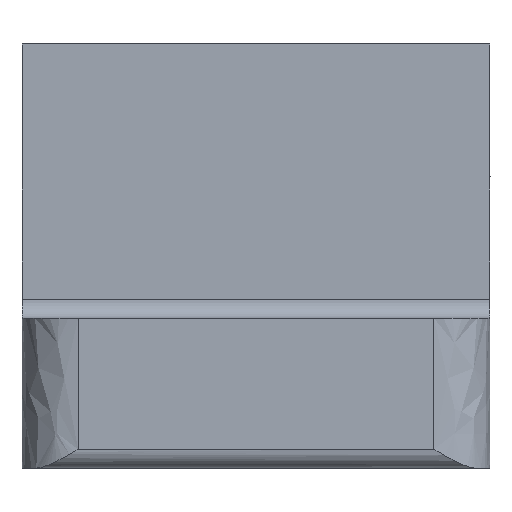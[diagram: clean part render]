
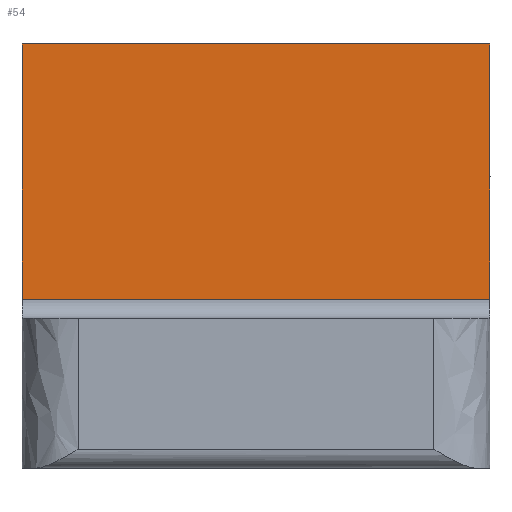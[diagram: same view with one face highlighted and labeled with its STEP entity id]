
A CAD part, left-side view. The second image highlights one B-rep face of the part: STEP entity #54.
In plain terms, the highlighted planar face has unit normal (-1, 0, 0).
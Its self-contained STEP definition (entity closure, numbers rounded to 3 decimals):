
#46 = ORIENTED_EDGE ( 'NONE', *, *, #152, .T. ) ;
#52 = CARTESIAN_POINT ( 'NONE',  ( -4.75, -12.5, 0. ) ) ;
#54 = ADVANCED_FACE ( 'NONE', ( #547 ), #62, .F. ) ;
#62 = PLANE ( 'NONE',  #1268 ) ;
#69 = VECTOR ( 'NONE', #888, 1000. ) ;
#152 = EDGE_CURVE ( 'NONE', #383, #833, #958, .T. ) ;
#171 = CARTESIAN_POINT ( 'NONE',  ( -4.75, 12.5, 0. ) ) ;
#192 = DIRECTION ( 'NONE',  ( 0., 1., 0. ) ) ;
#261 = DIRECTION ( 'NONE',  ( 0., 0., -1. ) ) ;
#270 = CARTESIAN_POINT ( 'NONE',  ( -4.75, -12.5, 0. ) ) ;
#274 = ORIENTED_EDGE ( 'NONE', *, *, #1162, .F. ) ;
#309 = ORIENTED_EDGE ( 'NONE', *, *, #428, .F. ) ;
#323 = VECTOR ( 'NONE', #192, 1000. ) ;
#325 = ORIENTED_EDGE ( 'NONE', *, *, #1109, .T. ) ;
#349 = VECTOR ( 'NONE', #858, 1000. ) ;
#375 = CARTESIAN_POINT ( 'NONE',  ( -4.75, -12.5, 0. ) ) ;
#383 = VERTEX_POINT ( 'NONE', #270 ) ;
#385 = VECTOR ( 'NONE', #604, 1000. ) ;
#428 = EDGE_CURVE ( 'NONE', #383, #939, #679, .T. ) ;
#489 = CARTESIAN_POINT ( 'NONE',  ( -4.75, -12.5, 0. ) ) ;
#495 = CARTESIAN_POINT ( 'NONE',  ( -4.75, -12.5, -13.65 ) ) ;
#547 = FACE_OUTER_BOUND ( 'NONE', #1097, .T. ) ;
#604 = DIRECTION ( 'NONE',  ( 0., 0., -1. ) ) ;
#608 = CARTESIAN_POINT ( 'NONE',  ( -4.75, -12.5, -13.65 ) ) ;
#679 = LINE ( 'NONE', #489, #69 ) ;
#833 = VERTEX_POINT ( 'NONE', #171 ) ;
#858 = DIRECTION ( 'NONE',  ( 0., 1., 0. ) ) ;
#888 = DIRECTION ( 'NONE',  ( 0., 0., -1. ) ) ;
#912 = CARTESIAN_POINT ( 'NONE',  ( -4.75, 12.5, 0. ) ) ;
#939 = VERTEX_POINT ( 'NONE', #495 ) ;
#951 = DIRECTION ( 'NONE',  ( 1., 0., 0. ) ) ;
#958 = LINE ( 'NONE', #52, #349 ) ;
#990 = VERTEX_POINT ( 'NONE', #1185 ) ;
#1097 = EDGE_LOOP ( 'NONE', ( #325, #274, #309, #46 ) ) ;
#1104 = LINE ( 'NONE', #912, #385 ) ;
#1109 = EDGE_CURVE ( 'NONE', #833, #990, #1104, .T. ) ;
#1162 = EDGE_CURVE ( 'NONE', #939, #990, #1206, .T. ) ;
#1185 = CARTESIAN_POINT ( 'NONE',  ( -4.75, 12.5, -13.65 ) ) ;
#1206 = LINE ( 'NONE', #608, #323 ) ;
#1268 = AXIS2_PLACEMENT_3D ( 'NONE', #375, #951, #261 ) ;
